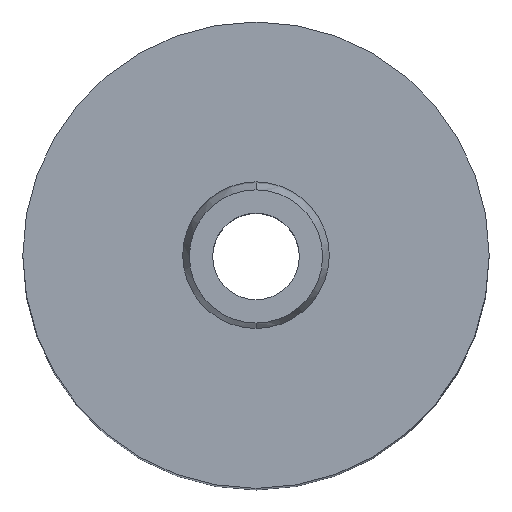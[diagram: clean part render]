
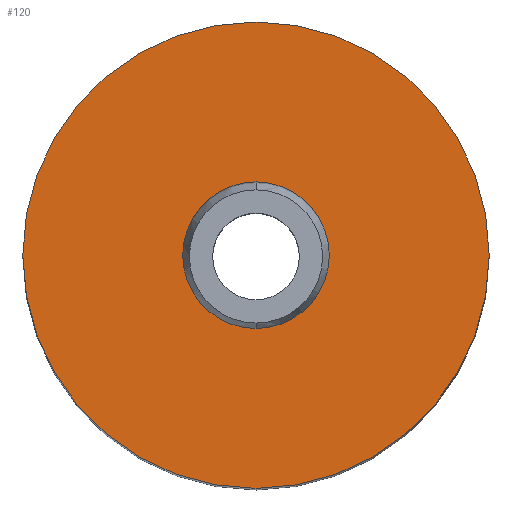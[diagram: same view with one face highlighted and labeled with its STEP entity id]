
A CAD part, top view. The second image highlights one B-rep face of the part: STEP entity #120.
In plain terms, the highlighted planar face has unit normal (0, 0, 1).
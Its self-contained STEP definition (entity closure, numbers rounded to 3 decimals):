
#104=PLANE('',#373);
#109=FACE_BOUND('',#163,.T.);
#110=FACE_BOUND('',#164,.T.);
#120=ADVANCED_FACE('',(#109,#110),#104,.T.);
#163=EDGE_LOOP('',(#221,#222));
#164=EDGE_LOOP('',(#223,#224));
#180=CIRCLE('',#361,35.);
#181=CIRCLE('',#363,35.);
#185=CIRCLE('',#369,11.);
#186=CIRCLE('',#371,11.);
#221=ORIENTED_EDGE('',*,*,#298,.F.);
#222=ORIENTED_EDGE('',*,*,#299,.F.);
#223=ORIENTED_EDGE('',*,*,#306,.T.);
#224=ORIENTED_EDGE('',*,*,#304,.T.);
#273=VERTEX_POINT('',#498);
#276=VERTEX_POINT('',#503);
#279=VERTEX_POINT('',#515);
#280=VERTEX_POINT('',#517);
#298=EDGE_CURVE('',#276,#273,#180,.T.);
#299=EDGE_CURVE('',#273,#276,#181,.T.);
#304=EDGE_CURVE('',#280,#279,#185,.T.);
#306=EDGE_CURVE('',#279,#280,#186,.T.);
#361=AXIS2_PLACEMENT_3D('',#504,#406,#407);
#363=AXIS2_PLACEMENT_3D('',#506,#410,#411);
#369=AXIS2_PLACEMENT_3D('',#516,#423,#424);
#371=AXIS2_PLACEMENT_3D('',#520,#428,#429);
#373=AXIS2_PLACEMENT_3D('',#522,#432,#433);
#406=DIRECTION('',(0.,0.,-1.));
#407=DIRECTION('',(1.,0.,0.));
#410=DIRECTION('',(0.,0.,-1.));
#411=DIRECTION('',(-1.,0.,0.));
#423=DIRECTION('',(0.,0.,-1.));
#424=DIRECTION('',(1.,0.,0.));
#428=DIRECTION('',(0.,0.,-1.));
#429=DIRECTION('',(-1.,0.,0.));
#432=DIRECTION('',(0.,0.,1.));
#433=DIRECTION('',(-1.,0.,0.));
#498=CARTESIAN_POINT('',(0.,35.,140.));
#503=CARTESIAN_POINT('',(0.,-35.,140.));
#504=CARTESIAN_POINT('',(0.,0.,140.));
#506=CARTESIAN_POINT('',(0.,0.,140.));
#515=CARTESIAN_POINT('',(0.,11.,140.));
#516=CARTESIAN_POINT('',(0.,0.,140.));
#517=CARTESIAN_POINT('',(0.,-11.,140.));
#520=CARTESIAN_POINT('',(0.,0.,140.));
#522=CARTESIAN_POINT('',(0.,0.,140.));
